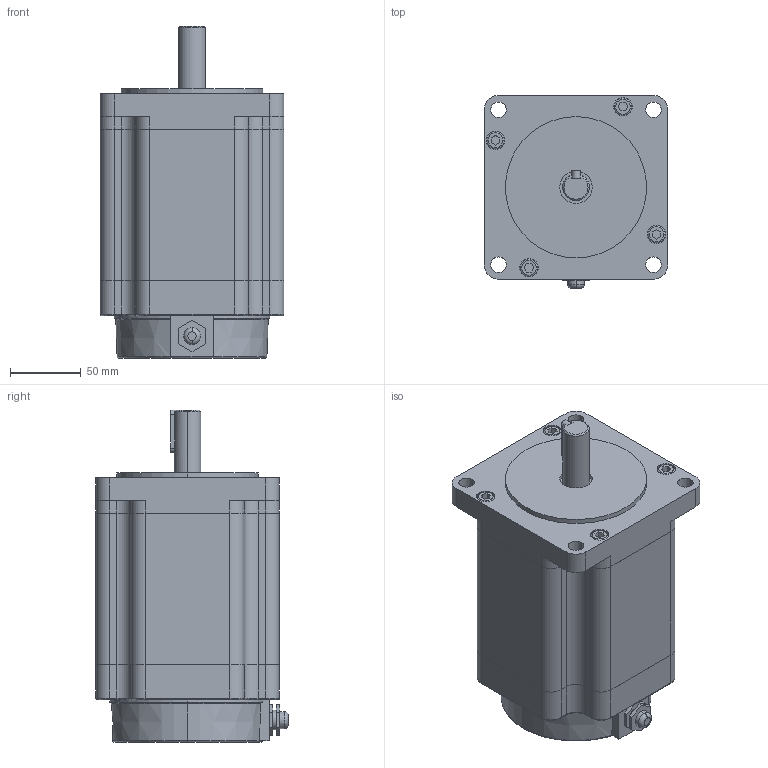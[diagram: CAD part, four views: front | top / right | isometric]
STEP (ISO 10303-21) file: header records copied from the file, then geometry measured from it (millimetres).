
FILE_DESCRIPTION (( 'STEP AP214' ), '1' );
FILE_NAME ('LS130C20-R8J50.STEP', '2021-09-07T06:50:35', ( '' ), ( '' ), 'SwSTEP 2.0', 'SolidWorks 2021', '' );
FILE_SCHEMA (( 'AUTOMOTIVE_DESIGN' ));
Length unit declared in the file: millimetre
Products named in the file (1): LS130C20-R8J50
Bounding box: 130 x 136.37 x 235 mm (x, y, z)
Volume: 2594817.8 mm3; surface area: 128558.8 mm2
Topology: 2 solids, 2 shells, 249 faces, 617 edges, 398 vertices
Faces by surface type: plane 116, cylinder 101, torus 27, cone 5
Entity records: 9696 total; most frequent: DIRECTION 1362, CARTESIAN_POINT 1326, ORIENTED_EDGE 1234, EDGE_CURVE 617, AXIS2_PLACEMENT_3D 502, VERTEX_POINT 398, LINE 358, VECTOR 358
